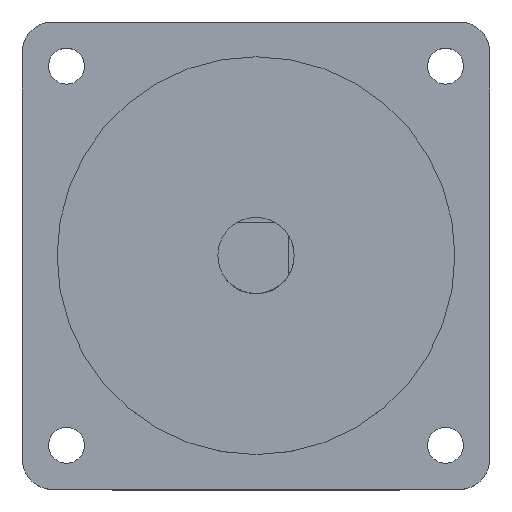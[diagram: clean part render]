
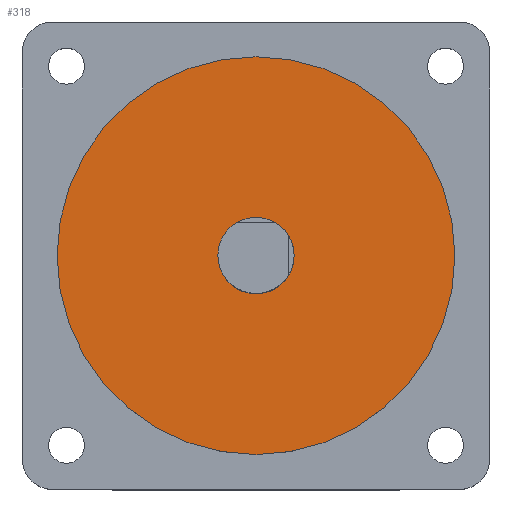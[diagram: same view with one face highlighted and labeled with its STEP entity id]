
A CAD part, top view. The second image highlights one B-rep face of the part: STEP entity #318.
In plain terms, the highlighted planar face has unit normal (0, 0, 1).
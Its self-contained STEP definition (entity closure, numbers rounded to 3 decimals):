
#3 = DIRECTION ( 'NONE',  ( 0., 0., 1. ) ) ;
#209 = ORIENTED_EDGE ( 'NONE', *, *, #1633, .T. ) ;
#263 = CARTESIAN_POINT ( 'NONE',  ( 0., 0., 2. ) ) ;
#318 = ADVANCED_FACE ( 'NONE', ( #1337, #2743 ), #1901, .T. ) ;
#321 = AXIS2_PLACEMENT_3D ( 'NONE', #3303, #685, #2731 ) ;
#406 = VERTEX_POINT ( 'NONE', #2262 ) ;
#569 = DIRECTION ( 'NONE',  ( 1., 0., 0. ) ) ;
#685 = DIRECTION ( 'NONE',  ( 0., 0., 1. ) ) ;
#875 = DIRECTION ( 'NONE',  ( 0., 0., -1. ) ) ;
#950 = EDGE_LOOP ( 'NONE', ( #2236, #209 ) ) ;
#965 = CIRCLE ( 'NONE', #1666, 7. ) ;
#1066 = VERTEX_POINT ( 'NONE', #3254 ) ;
#1097 = CIRCLE ( 'NONE', #2667, 7. ) ;
#1156 = CIRCLE ( 'NONE', #3459, 36.513 ) ;
#1203 = EDGE_LOOP ( 'NONE', ( #1283, #1696 ) ) ;
#1268 = VERTEX_POINT ( 'NONE', #3713 ) ;
#1283 = ORIENTED_EDGE ( 'NONE', *, *, #3179, .T. ) ;
#1337 = FACE_OUTER_BOUND ( 'NONE', #950, .T. ) ;
#1633 = EDGE_CURVE ( 'NONE', #406, #1268, #2786, .T. ) ;
#1666 = AXIS2_PLACEMENT_3D ( 'NONE', #2625, #875, #2922 ) ;
#1686 = EDGE_CURVE ( 'NONE', #1268, #406, #1156, .T. ) ;
#1696 = ORIENTED_EDGE ( 'NONE', *, *, #3614, .T. ) ;
#1729 = CARTESIAN_POINT ( 'NONE',  ( 0., 0., 2. ) ) ;
#1776 = CARTESIAN_POINT ( 'NONE',  ( 0., 0., 2. ) ) ;
#1901 = PLANE ( 'NONE',  #321 ) ;
#2023 = DIRECTION ( 'NONE',  ( 1., 0., 0. ) ) ;
#2078 = DIRECTION ( 'NONE',  ( 1., 0., 0. ) ) ;
#2236 = ORIENTED_EDGE ( 'NONE', *, *, #1686, .T. ) ;
#2262 = CARTESIAN_POINT ( 'NONE',  ( 36.513, 0., 2. ) ) ;
#2334 = DIRECTION ( 'NONE',  ( 0., 0., 1. ) ) ;
#2625 = CARTESIAN_POINT ( 'NONE',  ( 0., 0., 2. ) ) ;
#2667 = AXIS2_PLACEMENT_3D ( 'NONE', #1729, #3750, #2023 ) ;
#2731 = DIRECTION ( 'NONE',  ( 1., 0., 0. ) ) ;
#2743 = FACE_BOUND ( 'NONE', #1203, .T. ) ;
#2786 = CIRCLE ( 'NONE', #3063, 36.513 ) ;
#2922 = DIRECTION ( 'NONE',  ( 1., 0., 0. ) ) ;
#3063 = AXIS2_PLACEMENT_3D ( 'NONE', #263, #2334, #569 ) ;
#3136 = VERTEX_POINT ( 'NONE', #3418 ) ;
#3179 = EDGE_CURVE ( 'NONE', #3136, #1066, #1097, .T. ) ;
#3254 = CARTESIAN_POINT ( 'NONE',  ( 7., 0., 2. ) ) ;
#3303 = CARTESIAN_POINT ( 'NONE',  ( 0., 0., 2. ) ) ;
#3418 = CARTESIAN_POINT ( 'NONE',  ( -7., 0., 2. ) ) ;
#3459 = AXIS2_PLACEMENT_3D ( 'NONE', #1776, #3, #2078 ) ;
#3614 = EDGE_CURVE ( 'NONE', #1066, #3136, #965, .T. ) ;
#3713 = CARTESIAN_POINT ( 'NONE',  ( -36.513, 0., 2. ) ) ;
#3750 = DIRECTION ( 'NONE',  ( 0., 0., -1. ) ) ;
